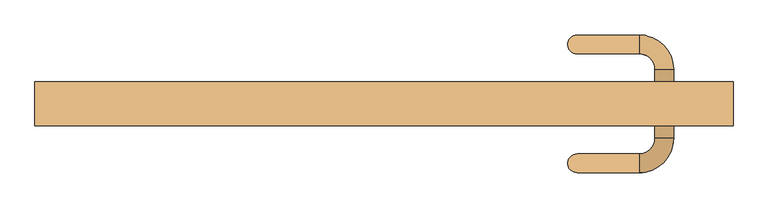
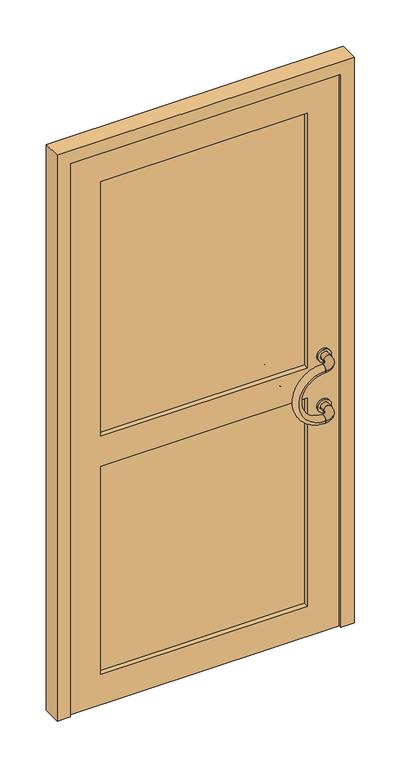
"""IFC4 building model written with IfcOpenShell, lengths in millimetres: door geometry, Simple vitrée : Simple vitrée."""

from ifc_helpers import new_model, si_unit, point, frame, frame_2d, origin, place, context, project, spatial, polyline, circle_curve, ellipse_curve, trimmed, segment, composite_curve, outline, extrude, source, transform, mapped, element, save
from ifc_brep_helpers import plane_surface, revolved_surface, advanced_brep


def door_150329e5(model_context):
    return source(origin(), model_context, "Body", "SolidModel", [
        extrude(outline(composite_curve([segment(trimmed(circle_curve(frame_2d((1100.0, 447.9286595)), 25.0), [point((1100.0, 472.9286595))], [point((1100.0, 422.9286595))], False, "CARTESIAN"), True, "CONTINUOUS"), segment(trimmed(circle_curve(frame_2d((1100.0, 447.9286595)), 25.0), [point((1100.0, 422.9286595))], [point((1100.0, 472.9286595))], False, "CARTESIAN"), True, "CONTINUOUS")], self_intersect=False), holes=[composite_curve([segment(trimmed(circle_curve(frame_2d((1100.0, 447.9286595)), 15.0), [point((1100.0, 462.9286595))], [point((1100.0, 432.9286595))], True, "CARTESIAN"), True, "CONTINUOUS"), segment(trimmed(circle_curve(frame_2d((1100.0, 447.9286595)), 15.0), [point((1100.0, 432.9286595))], [point((1100.0, 462.9286595))], True, "CARTESIAN"), True, "CONTINUOUS")], self_intersect=False)]), frame((0.0, -43.0, 0.0), z_axis=(0.0, 1.0, 0.0), x_axis=(0.0, 0.0, 1.0)), (0.0, 0.0, 1.0), 8.0),
        extrude(outline(composite_curve([segment(trimmed(circle_curve(frame_2d((900.0, 447.9286595)), 25.0), [point((900.0, 472.9286595))], [point((900.0, 422.9286595))], False, "CARTESIAN"), True, "CONTINUOUS"), segment(trimmed(circle_curve(frame_2d((900.0, 447.9286595)), 25.0), [point((900.0, 422.9286595))], [point((900.0, 472.9286595))], False, "CARTESIAN"), True, "CONTINUOUS")], self_intersect=False), holes=[composite_curve([segment(trimmed(circle_curve(frame_2d((900.0, 447.9286595)), 15.0), [point((900.0, 462.9286595))], [point((900.0, 432.9286595))], True, "CARTESIAN"), True, "CONTINUOUS"), segment(trimmed(circle_curve(frame_2d((900.0, 447.9286595)), 15.0), [point((900.0, 432.9286595))], [point((900.0, 462.9286595))], True, "CARTESIAN"), True, "CONTINUOUS")], self_intersect=False)]), frame((0.0, -43.0, 0.0), z_axis=(0.0, 1.0, 0.0), x_axis=(0.0, 0.0, 1.0)), (0.0, 0.0, 1.0), 8.0),
        extrude(outline(composite_curve([segment(trimmed(circle_curve(frame_2d((1100.0, 447.9286595)), 25.0), [point((1100.0, 472.9286595))], [point((1100.0, 422.9286595))], False, "CARTESIAN"), True, "CONTINUOUS"), segment(trimmed(circle_curve(frame_2d((1100.0, 447.9286595)), 25.0), [point((1100.0, 422.9286595))], [point((1100.0, 472.9286595))], False, "CARTESIAN"), True, "CONTINUOUS")], self_intersect=False), holes=[composite_curve([segment(trimmed(circle_curve(frame_2d((1100.0, 447.9286595)), 15.0), [point((1100.0, 462.9286595))], [point((1100.0, 432.9286595))], True, "CARTESIAN"), True, "CONTINUOUS"), segment(trimmed(circle_curve(frame_2d((1100.0, 447.9286595)), 15.0), [point((1100.0, 432.9286595))], [point((1100.0, 462.9286595))], True, "CARTESIAN"), True, "CONTINUOUS")], self_intersect=False)]), frame((0.0, 15.0, 0.0), z_axis=(0.0, 1.0, 0.0), x_axis=(0.0, 0.0, 1.0)), (0.0, 0.0, 1.0), 8.0),
        extrude(outline(composite_curve([segment(trimmed(circle_curve(frame_2d((900.0, 447.9286595)), 25.0), [point((900.0, 472.9286595))], [point((900.0, 422.9286595))], False, "CARTESIAN"), True, "CONTINUOUS"), segment(trimmed(circle_curve(frame_2d((900.0, 447.9286595)), 25.0), [point((900.0, 422.9286595))], [point((900.0, 472.9286595))], False, "CARTESIAN"), True, "CONTINUOUS")], self_intersect=False), holes=[composite_curve([segment(trimmed(circle_curve(frame_2d((900.0, 447.9286595)), 15.0), [point((900.0, 462.9286595))], [point((900.0, 432.9286595))], True, "CARTESIAN"), True, "CONTINUOUS"), segment(trimmed(circle_curve(frame_2d((900.0, 447.9286595)), 15.0), [point((900.0, 432.9286595))], [point((900.0, 462.9286595))], True, "CARTESIAN"), True, "CONTINUOUS")], self_intersect=False)]), frame((0.0, 15.0, 0.0), z_axis=(0.0, 1.0, 0.0), x_axis=(0.0, 0.0, 1.0)), (0.0, 0.0, 1.0), 8.0),
        advanced_brep(
        [(407.9286595, -120.0, 1100.0), (407.9286595, -90.0, 1100.0), (407.9286595, -120.0, 900.0), (407.9286595, -90.0, 900.0)],
        [
            (0, 1, circle_curve(frame((407.9286595, -105.0, 1100.0), z_axis=(1.0, 0.0, 0.0), x_axis=(0.0, 1.0, 0.0)), 15.0)),
            (1, 0, circle_curve(frame((407.9286595, -105.0, 1100.0), z_axis=(1.0, 0.0, 0.0), x_axis=(0.0, 1.0, 0.0)), 15.0)),
            (2, 3, circle_curve(frame((407.9286595, -105.0, 900.0), z_axis=(1.0, 0.0, 0.0), x_axis=(0.0, 1.0, 0.0)), 15.0)),
            (3, 2, circle_curve(frame((407.9286595, -105.0, 900.0), z_axis=(1.0, 0.0, 0.0), x_axis=(0.0, 1.0, 0.0)), 15.0)),
            (3, 1, circle_curve(frame((407.9286595, -90.0, 1000.0), z_axis=(0.0, 1.0, 0.0), x_axis=(0.0, 0.0, 1.0)), 100.0)),
            (0, 2, circle_curve(frame((407.9286595, -120.0, 1000.0), z_axis=(0.0, -1.0, 0.0), x_axis=(0.0, 0.0, 1.0)), 100.0)),
        ],
        [
            plane_surface(frame((407.9286595, -105.0, 1000.0), z_axis=(1.0, 0.0, 0.0), x_axis=(0.0, 0.0, 1.0))),
            plane_surface(frame((407.9286595, -105.0, 1000.0), z_axis=(1.0, 0.0, 0.0), x_axis=(0.0, 0.0, -1.0))),
            revolved_surface(trimmed(ellipse_curve(frame((407.9286595, -105.0, 1100.0), z_axis=(1.0, 0.0, 0.0), x_axis=(0.0, 1.0, 0.0)), 15.0, 15.0), [point((407.9286595, -120.0, 1100.0))], [point((407.9286595, -90.0, 1100.0))], True, "CARTESIAN"), (407.9286595, -105.0, 1000.0), (0.0, -1.0, 0.0)),
            revolved_surface(trimmed(ellipse_curve(frame((407.9286595, -105.0, 1100.0), z_axis=(1.0, 0.0, 0.0), x_axis=(0.0, 1.0, 0.0)), 15.0, 15.0), [point((407.9286595, -90.0, 1100.0))], [point((407.9286595, -120.0, 1100.0))], True, "CARTESIAN"), (407.9286595, -105.0, 1000.0), (0.0, -1.0, 0.0)),
        ],
        [
            (0, [[1, 2]]),
            (1, [[3, 4]]),
            (2, [[5, -1, 6, -4]]),
            (3, [[-6, -2, -5, -3]]),
        ],
    ),
        advanced_brep(
        [(432.9286595, -65.0, 1100.0), (462.9286595, -65.0, 1100.0), (407.9286595, -90.0, 1100.0), (407.9286595, -120.0, 1100.0)],
        [
            (0, 1, circle_curve(frame((447.9286595, -65.0, 1100.0), z_axis=(0.0, 1.0, 0.0), x_axis=(1.0, 0.0, 0.0)), 15.0)),
            (1, 0, circle_curve(frame((447.9286595, -65.0, 1100.0), z_axis=(0.0, 1.0, 0.0), x_axis=(1.0, 0.0, 0.0)), 15.0)),
            (2, 3, circle_curve(frame((407.9286595, -105.0, 1100.0), z_axis=(-1.0, 0.0, 0.0), x_axis=(0.0, -1.0, 0.0)), 15.0)),
            (3, 2, circle_curve(frame((407.9286595, -105.0, 1100.0), z_axis=(-1.0, 0.0, 0.0), x_axis=(0.0, -1.0, 0.0)), 15.0)),
            (3, 1, circle_curve(frame((407.9286595, -65.0, 1100.0), z_axis=(0.0, 0.0, 1.0), x_axis=(1.0, 0.0, 0.0)), 55.0)),
            (0, 2, circle_curve(frame((407.9286595, -65.0, 1100.0), z_axis=(0.0, 0.0, -1.0), x_axis=(1.0, 0.0, 0.0)), 25.0)),
        ],
        [
            plane_surface(frame((407.9286595, -65.0, 1100.0), z_axis=(0.0, 1.0, 0.0), x_axis=(1.0, 0.0, 0.0))),
            plane_surface(frame((407.9286595, -65.0, 1100.0), z_axis=(-1.0, 0.0, 0.0), x_axis=(0.0, -1.0, 0.0))),
            revolved_surface(trimmed(ellipse_curve(frame((447.9286595, -65.0, 1100.0), z_axis=(0.0, 1.0, 0.0), x_axis=(1.0, 0.0, 0.0)), 15.0, 15.0), [point((432.9286595, -65.0, 1100.0))], [point((462.9286595, -65.0, 1100.0))], True, "CARTESIAN"), (407.9286595, -65.0, 1100.0), (0.0, 0.0, -1.0)),
            revolved_surface(trimmed(ellipse_curve(frame((447.9286595, -65.0, 1100.0), z_axis=(0.0, 1.0, 0.0), x_axis=(1.0, 0.0, 0.0)), 15.0, 15.0), [point((462.9286595, -65.0, 1100.0))], [point((432.9286595, -65.0, 1100.0))], True, "CARTESIAN"), (407.9286595, -65.0, 1100.0), (0.0, 0.0, -1.0)),
        ],
        [
            (0, [[1, 2]]),
            (1, [[3, 4]]),
            (2, [[5, -1, 6, -4]]),
            (3, [[-6, -2, -5, -3]]),
        ],
    ),
        advanced_brep(
        [(432.9286595, -65.0, 900.0), (462.9286595, -65.0, 900.0), (407.9286595, -90.0, 900.0), (407.9286595, -120.0, 900.0)],
        [
            (0, 1, circle_curve(frame((447.9286595, -65.0, 900.0), z_axis=(0.0, 1.0, 0.0), x_axis=(1.0, 0.0, 0.0)), 15.0)),
            (1, 0, circle_curve(frame((447.9286595, -65.0, 900.0), z_axis=(0.0, 1.0, 0.0), x_axis=(1.0, 0.0, 0.0)), 15.0)),
            (2, 3, circle_curve(frame((407.9286595, -105.0, 900.0), z_axis=(-1.0, 0.0, 0.0), x_axis=(0.0, -1.0, 0.0)), 15.0)),
            (3, 2, circle_curve(frame((407.9286595, -105.0, 900.0), z_axis=(-1.0, 0.0, 0.0), x_axis=(0.0, -1.0, 0.0)), 15.0)),
            (3, 1, circle_curve(frame((407.9286595, -65.0, 900.0), z_axis=(0.0, 0.0, 1.0), x_axis=(1.0, 0.0, 0.0)), 55.0)),
            (0, 2, circle_curve(frame((407.9286595, -65.0, 900.0), z_axis=(0.0, 0.0, -1.0), x_axis=(1.0, 0.0, 0.0)), 25.0)),
        ],
        [
            plane_surface(frame((407.9286595, -65.0, 1100.0), z_axis=(0.0, 1.0, 0.0), x_axis=(1.0, 0.0, 0.0))),
            plane_surface(frame((407.9286595, -65.0, 1100.0), z_axis=(-1.0, 0.0, 0.0), x_axis=(0.0, -1.0, 0.0))),
            revolved_surface(trimmed(ellipse_curve(frame((447.9286595, -65.0, 900.0), z_axis=(0.0, 1.0, 0.0), x_axis=(1.0, 0.0, 0.0)), 15.0, 15.0), [point((432.9286595, -65.0, 900.0))], [point((462.9286595, -65.0, 900.0))], True, "CARTESIAN"), (407.9286595, -65.0, 1100.0), (0.0, 0.0, -1.0)),
            revolved_surface(trimmed(ellipse_curve(frame((447.9286595, -65.0, 900.0), z_axis=(0.0, 1.0, 0.0), x_axis=(1.0, 0.0, 0.0)), 15.0, 15.0), [point((462.9286595, -65.0, 900.0))], [point((432.9286595, -65.0, 900.0))], True, "CARTESIAN"), (407.9286595, -65.0, 1100.0), (0.0, 0.0, -1.0)),
        ],
        [
            (0, [[1, 2]]),
            (1, [[3, 4]]),
            (2, [[5, -1, 6, -4]]),
            (3, [[-6, -2, -5, -3]]),
        ],
    ),
        extrude(outline(composite_curve([segment(trimmed(circle_curve(frame_2d((1100.0, 447.9286595)), 15.0), [point((1100.0, 462.9286595))], [point((1100.0, 432.9286595))], False, "CARTESIAN"), True, "CONTINUOUS"), segment(trimmed(circle_curve(frame_2d((1100.0, 447.9286595)), 15.0), [point((1100.0, 432.9286595))], [point((1100.0, 462.9286595))], False, "CARTESIAN"), True, "CONTINUOUS")], self_intersect=False)), frame((0.0, -65.0, 0.0), z_axis=(0.0, 1.0, 0.0), x_axis=(0.0, 0.0, 1.0)), (0.0, 0.0, 1.0), 30.0),
        extrude(outline(composite_curve([segment(trimmed(circle_curve(frame_2d((900.0, 447.9286595)), 15.0), [point((900.0, 462.9286595))], [point((900.0, 432.9286595))], False, "CARTESIAN"), True, "CONTINUOUS"), segment(trimmed(circle_curve(frame_2d((900.0, 447.9286595)), 15.0), [point((900.0, 432.9286595))], [point((900.0, 462.9286595))], False, "CARTESIAN"), True, "CONTINUOUS")], self_intersect=False)), frame((0.0, -65.0, 0.0), z_axis=(0.0, 1.0, 0.0), x_axis=(0.0, 0.0, 1.0)), (0.0, 0.0, 1.0), 30.0),
        advanced_brep(
        [(407.9286595, 70.0, 1100.0), (407.9286595, 100.0, 1100.0), (407.9286595, 70.0, 900.0), (407.9286595, 100.0, 900.0)],
        [
            (0, 1, circle_curve(frame((407.9286595, 85.0, 1100.0), z_axis=(1.0, 0.0, 0.0), x_axis=(0.0, 1.0, 0.0)), 15.0)),
            (1, 0, circle_curve(frame((407.9286595, 85.0, 1100.0), z_axis=(1.0, 0.0, 0.0), x_axis=(0.0, 1.0, 0.0)), 15.0)),
            (2, 3, circle_curve(frame((407.9286595, 85.0, 900.0), z_axis=(1.0, 0.0, 0.0), x_axis=(0.0, 1.0, 0.0)), 15.0)),
            (3, 2, circle_curve(frame((407.9286595, 85.0, 900.0), z_axis=(1.0, 0.0, 0.0), x_axis=(0.0, 1.0, 0.0)), 15.0)),
            (3, 1, circle_curve(frame((407.9286595, 100.0, 1000.0), z_axis=(0.0, 1.0, 0.0), x_axis=(0.0, 0.0, 1.0)), 100.0)),
            (0, 2, circle_curve(frame((407.9286595, 70.0, 1000.0), z_axis=(0.0, -1.0, 0.0), x_axis=(0.0, 0.0, 1.0)), 100.0)),
        ],
        [
            plane_surface(frame((407.9286595, 100.0, 1000.0), z_axis=(1.0, 0.0, 0.0), x_axis=(0.0, 0.0, 1.0))),
            plane_surface(frame((407.9286595, 100.0, 1000.0), z_axis=(1.0, 0.0, 0.0), x_axis=(0.0, 0.0, -1.0))),
            revolved_surface(trimmed(ellipse_curve(frame((407.9286595, 85.0, 1100.0), z_axis=(1.0, 0.0, 0.0), x_axis=(0.0, 1.0, 0.0)), 15.0, 15.0), [point((407.9286595, 70.0, 1100.0))], [point((407.9286595, 100.0, 1100.0))], True, "CARTESIAN"), (407.9286595, 100.0, 1000.0), (0.0, -1.0, 0.0)),
            revolved_surface(trimmed(ellipse_curve(frame((407.9286595, 85.0, 1100.0), z_axis=(1.0, 0.0, 0.0), x_axis=(0.0, 1.0, 0.0)), 15.0, 15.0), [point((407.9286595, 100.0, 1100.0))], [point((407.9286595, 70.0, 1100.0))], True, "CARTESIAN"), (407.9286595, 100.0, 1000.0), (0.0, -1.0, 0.0)),
        ],
        [
            (0, [[1, 2]]),
            (1, [[3, 4]]),
            (2, [[5, -1, 6, -4]]),
            (3, [[-6, -2, -5, -3]]),
        ],
    ),
        advanced_brep(
        [(462.9286595, 45.0, 1100.0), (432.9286595, 45.0, 1100.0), (407.9286595, 100.0, 1100.0), (407.9286595, 70.0, 1100.0)],
        [
            (0, 1, circle_curve(frame((447.9286595, 45.0, 1100.0), z_axis=(0.0, -1.0, 0.0), x_axis=(-1.0, 0.0, 0.0)), 15.0)),
            (1, 0, circle_curve(frame((447.9286595, 45.0, 1100.0), z_axis=(0.0, -1.0, 0.0), x_axis=(-1.0, 0.0, 0.0)), 15.0)),
            (2, 3, circle_curve(frame((407.9286595, 85.0, 1100.0), z_axis=(-1.0, 0.0, 0.0), x_axis=(0.0, -1.0, 0.0)), 15.0)),
            (3, 2, circle_curve(frame((407.9286595, 85.0, 1100.0), z_axis=(-1.0, 0.0, 0.0), x_axis=(0.0, -1.0, 0.0)), 15.0)),
            (3, 1, circle_curve(frame((407.9286595, 45.0, 1100.0), z_axis=(0.0, 0.0, -1.0), x_axis=(1.0, 0.0, 0.0)), 25.0)),
            (0, 2, circle_curve(frame((407.9286595, 45.0, 1100.0), z_axis=(0.0, 0.0, 1.0), x_axis=(1.0, 0.0, 0.0)), 55.0)),
        ],
        [
            plane_surface(frame((407.9286595, 45.0, 1100.0), z_axis=(0.0, -1.0, 0.0), x_axis=(1.0, 0.0, 0.0))),
            plane_surface(frame((407.9286595, 45.0, 1100.0), z_axis=(-1.0, 0.0, 0.0), x_axis=(0.0, 1.0, 0.0))),
            revolved_surface(trimmed(ellipse_curve(frame((447.9286595, 45.0, 1100.0), z_axis=(0.0, -1.0, 0.0), x_axis=(-1.0, 0.0, 0.0)), 15.0, 15.0), [point((462.9286595, 45.0, 1100.0))], [point((432.9286595, 45.0, 1100.0))], True, "CARTESIAN"), (407.9286595, 45.0, 1100.0), (0.0, 0.0, 1.0)),
            revolved_surface(trimmed(ellipse_curve(frame((447.9286595, 45.0, 1100.0), z_axis=(0.0, -1.0, 0.0), x_axis=(-1.0, 0.0, 0.0)), 15.0, 15.0), [point((432.9286595, 45.0, 1100.0))], [point((462.9286595, 45.0, 1100.0))], True, "CARTESIAN"), (407.9286595, 45.0, 1100.0), (0.0, 0.0, 1.0)),
        ],
        [
            (0, [[1, 2]]),
            (1, [[3, 4]]),
            (2, [[5, -1, 6, -4]]),
            (3, [[-6, -2, -5, -3]]),
        ],
    ),
        advanced_brep(
        [(462.9286595, 45.0, 900.0), (432.9286595, 45.0, 900.0), (407.9286595, 100.0, 900.0), (407.9286595, 70.0, 900.0)],
        [
            (0, 1, circle_curve(frame((447.9286595, 45.0, 900.0), z_axis=(0.0, -1.0, 0.0), x_axis=(-1.0, 0.0, 0.0)), 15.0)),
            (1, 0, circle_curve(frame((447.9286595, 45.0, 900.0), z_axis=(0.0, -1.0, 0.0), x_axis=(-1.0, 0.0, 0.0)), 15.0)),
            (2, 3, circle_curve(frame((407.9286595, 85.0, 900.0), z_axis=(-1.0, 0.0, 0.0), x_axis=(0.0, -1.0, 0.0)), 15.0)),
            (3, 2, circle_curve(frame((407.9286595, 85.0, 900.0), z_axis=(-1.0, 0.0, 0.0), x_axis=(0.0, -1.0, 0.0)), 15.0)),
            (3, 1, circle_curve(frame((407.9286595, 45.0, 900.0), z_axis=(0.0, 0.0, -1.0), x_axis=(1.0, 0.0, 0.0)), 25.0)),
            (0, 2, circle_curve(frame((407.9286595, 45.0, 900.0), z_axis=(0.0, 0.0, 1.0), x_axis=(1.0, 0.0, 0.0)), 55.0)),
        ],
        [
            plane_surface(frame((407.9286595, 45.0, 1100.0), z_axis=(0.0, -1.0, 0.0), x_axis=(1.0, 0.0, 0.0))),
            plane_surface(frame((407.9286595, 45.0, 1100.0), z_axis=(-1.0, 0.0, 0.0), x_axis=(0.0, 1.0, 0.0))),
            revolved_surface(trimmed(ellipse_curve(frame((447.9286595, 45.0, 900.0), z_axis=(0.0, -1.0, 0.0), x_axis=(-1.0, 0.0, 0.0)), 15.0, 15.0), [point((462.9286595, 45.0, 900.0))], [point((432.9286595, 45.0, 900.0))], True, "CARTESIAN"), (407.9286595, 45.0, 1100.0), (0.0, 0.0, 1.0)),
            revolved_surface(trimmed(ellipse_curve(frame((447.9286595, 45.0, 900.0), z_axis=(0.0, -1.0, 0.0), x_axis=(-1.0, 0.0, 0.0)), 15.0, 15.0), [point((432.9286595, 45.0, 900.0))], [point((462.9286595, 45.0, 900.0))], True, "CARTESIAN"), (407.9286595, 45.0, 1100.0), (0.0, 0.0, 1.0)),
        ],
        [
            (0, [[1, 2]]),
            (1, [[3, 4]]),
            (2, [[5, -1, 6, -4]]),
            (3, [[-6, -2, -5, -3]]),
        ],
    ),
        extrude(outline(composite_curve([segment(trimmed(circle_curve(frame_2d((1100.0, 447.9286595)), 15.0), [point((1100.0, 462.9286595))], [point((1100.0, 432.9286595))], False, "CARTESIAN"), True, "CONTINUOUS"), segment(trimmed(circle_curve(frame_2d((1100.0, 447.9286595)), 15.0), [point((1100.0, 432.9286595))], [point((1100.0, 462.9286595))], False, "CARTESIAN"), True, "CONTINUOUS")], self_intersect=False)), frame((0.0, 15.0, 0.0), z_axis=(0.0, 1.0, 0.0), x_axis=(0.0, 0.0, 1.0)), (0.0, 0.0, 1.0), 30.0),
        extrude(outline(composite_curve([segment(trimmed(circle_curve(frame_2d((900.0, 447.9286595)), 15.0), [point((900.0, 462.9286595))], [point((900.0, 432.9286595))], False, "CARTESIAN"), True, "CONTINUOUS"), segment(trimmed(circle_curve(frame_2d((900.0, 447.9286595)), 15.0), [point((900.0, 432.9286595))], [point((900.0, 462.9286595))], False, "CARTESIAN"), True, "CONTINUOUS")], self_intersect=False)), frame((0.0, 15.0, 0.0), z_axis=(0.0, 1.0, 0.0), x_axis=(0.0, 0.0, 1.0)), (0.0, 0.0, 1.0), 30.0),
        extrude(outline(polyline([(0.0, -507.9286595), (2200.0, -507.9286595), (2200.0, 507.9286595), (0.0, 507.9286595), (0.0, 557.9286595), (2250.0, 557.9286595), (2250.0, -557.9286595), (0.0, -557.9286595), (0.0, -507.9286595)])), frame((0.0, -45.0, 0.0), z_axis=(0.0, 1.0, 0.0), x_axis=(0.0, 0.0, 1.0)), (0.0, 0.0, 1.0), 70.0),
        extrude(outline(polyline([(387.9286595, -5.0), (387.9286595, -15.0), (-387.9286595, -15.0), (-387.9286595, -5.0), (387.9286595, -5.0)])), frame((0.0, 0.0, 120.0), z_axis=(0.0, 0.0, 1.0), x_axis=(1.0, 0.0, 0.0)), (0.0, 0.0, 1.0), 1960.0),
        extrude(outline(polyline([(2200.0, 507.9286595), (2200.0, -507.9286595), (0.0, -507.9286595), (0.0, 507.9286595), (2200.0, 507.9286595)]), holes=[polyline([(2080.0, 387.9286595), (1067.5687603, 387.9286595), (1067.5687603, -387.9286595), (2080.0, -387.9286595), (2080.0, 387.9286595)]), polyline([(947.5687603, -387.9286595), (947.5687603, 387.9286595), (120.0, 387.9286595), (120.0, -387.9286595), (947.5687603, -387.9286595)])]), frame((0.0, -35.0, 0.0), z_axis=(0.0, 1.0, 0.0), x_axis=(0.0, 0.0, 1.0)), (0.0, 0.0, 1.0), 50.0),
    ])


if __name__ == "__main__":
    model = new_model("IFC4")
    model_context = context("Model", 3, world=origin())
    ifc_project = project(units=[si_unit("LENGTHUNIT", "METRE", prefix="MILLI")], contexts=[model_context])
    site = spatial("IfcSite", under=ifc_project)
    building = spatial("IfcBuilding", under=site)
    placement = place(None, origin())
    door_shape = door_150329e5(model_context)
    element("IfcDoor", 1, ObjectType="Simple vitrée : Simple vitrée", at=placement, inside=building, context=model_context, shape_type="MappedRepresentation", body=[
        mapped(door_shape, transform((0.0, 0.0, 0.0), x_axis=(1.0, 0.0, 0.0), y_axis=(0.0, 1.0, 0.0), z_axis=(0.0, 0.0, 1.0))),
    ])
    save(model, "model.ifc")
